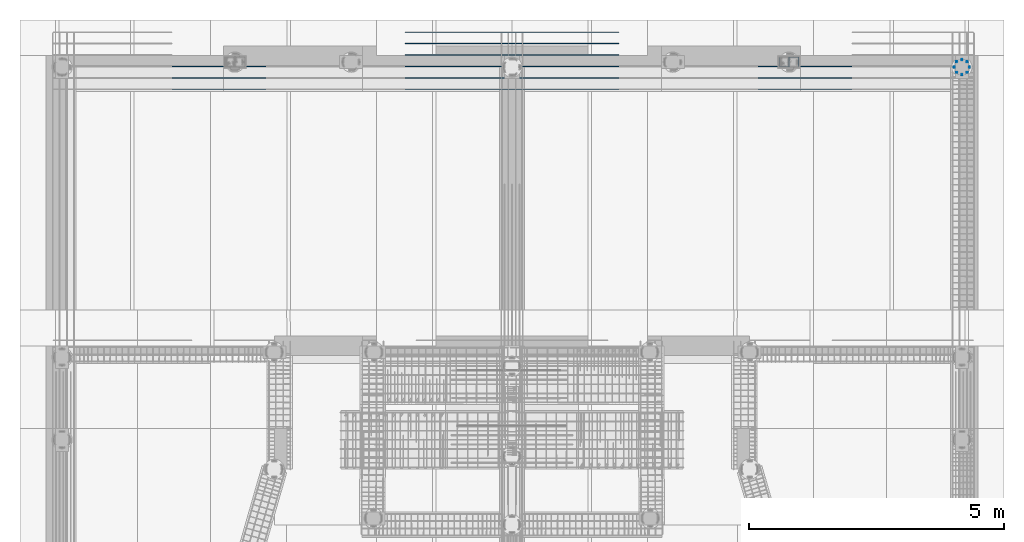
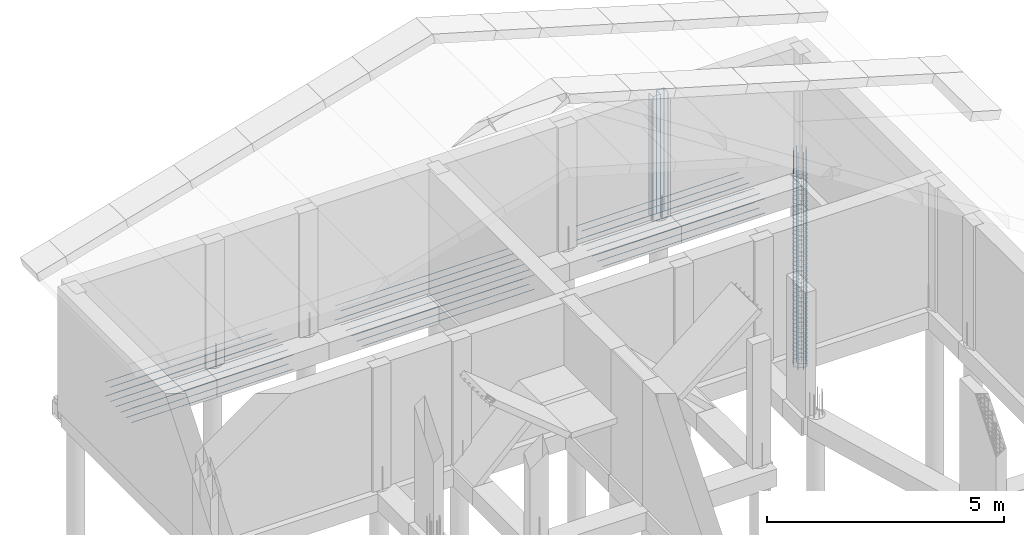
# One storey, part 13 of 13: 5 reinforcing bars.
"""IFC4 building model written with IfcOpenShell, lengths in metres."""

from ifc_helpers import new_model, entity, si_unit, origin_with_axes, place, context, project, spatial, source, transform, mapped, element, save


model = new_model("IFC4")

# Units and contexts
model_context = context("Model", 3, precision=1e-05, world=origin_with_axes())
ifc_project = project(units=[si_unit("LENGTHUNIT", "METRE"), si_unit("AREAUNIT", "SQUARE_METRE"), si_unit("VOLUMEUNIT", "CUBIC_METRE"), si_unit("MASSUNIT", "GRAM", prefix="KILO"), si_unit("TIMEUNIT", "SECOND"), si_unit("PLANEANGLEUNIT", "RADIAN"), si_unit("SOLIDANGLEUNIT", "STERADIAN"), si_unit("THERMODYNAMICTEMPERATUREUNIT", "DEGREE_CELSIUS")], contexts=[model_context])

# Site, building, storey
placement_1 = place(None, origin_with_axes())
site = spatial("IfcSite", under=ifc_project, at=placement_1, Name="Italia", CompositionType="ELEMENT")
building = spatial("IfcBuilding", under=site, at=placement_1, Name="Villa", CompositionType="ELEMENT")
storey = spatial("IfcBuildingStorey", under=building, at=placement_1, Name="Storey 0", CompositionType="ELEMENT", Elevation=0.0)

# Reinforcing bars
shared_shape_1 = source(origin_with_axes(), model_context, "Body", "AdvancedSweptSolid", [
    entity("IfcSweptDiskSolid", entity("IfcIndexedPolyCurve", entity("IfcCartesianPointList3D", [[14.342, 17.782, 0.0], [14.342, 17.782, 3.135], [14.345, 17.782, 3.15031], [14.3537, 17.782, 3.16328], [14.3667, 17.782, 3.17196], [14.382, 17.782, 3.175], [14.524, 17.782, 3.175]]), [entity("IfcLineIndex", [1, 2]), entity("IfcLineIndex", [2, 3]), entity("IfcLineIndex", [3, 4]), entity("IfcLineIndex", [4, 5]), entity("IfcLineIndex", [5, 6]), entity("IfcLineIndex", [6, 7])], False), 0.008),
])
placement_2 = place(placement_1, origin_with_axes())
reinforcing_bar_1_placement = place(placement_2, origin_with_axes())
element("IfcReinforcingBar", 1, at=reinforcing_bar_1_placement, inside=storey, BarLength=3.33943, CrossSectionArea=0.00020106, NominalDiameter=0.016, context=model_context, shape_type="MappedRepresentation", body=[
    mapped(shared_shape_1, transform((29.05, 35.73, 0.0), x_axis=(-1.0, 0.0, 0.0), y_axis=(0.0, -1.0, 0.0), z_axis=(0.0, 0.0, 1.0), scale=1.0)),
    mapped(shared_shape_1, transform((-3.44, 32.29, 0.0), x_axis=(0.0, -1.0, 0.0), y_axis=(1.0, 0.0, 0.0), z_axis=(0.0, 0.0, 1.0), scale=1.0)),
    mapped(shared_shape_1, transform((0.0, 0.0, 0.0), x_axis=(1.0, 0.0, 0.0), y_axis=(0.0, 1.0, 0.0), z_axis=(0.0, 0.0, 1.0), scale=1.0)),
    mapped(shared_shape_1, transform((32.307, 3.44, 0.0), x_axis=(0.0, 1.0, 0.0), y_axis=(-1.0, 0.0, 0.0), z_axis=(0.0, 0.0, 1.0), scale=1.0)),
    mapped(shared_shape_1, transform((-3.257, 32.29, 0.0), x_axis=(0.0, -1.0, 0.0), y_axis=(1.0, 0.0, 0.0), z_axis=(0.0, 0.0, 1.0), scale=1.0)),
    mapped(shared_shape_1, transform((32.49, 3.44, 0.0), x_axis=(0.0, 1.0, 0.0), y_axis=(-1.0, 0.0, 0.0), z_axis=(0.0, 0.0, 1.0), scale=1.0)),
])
shared_shape_2 = source(origin_with_axes(), model_context, "Body", "AdvancedSweptSolid", [
    entity("IfcSweptDiskSolid", entity("IfcIndexedPolyCurve", entity("IfcCartesianPointList3D", [[18.0197, 17.6603, -5.0], [18.0197, 17.6603, 0.6]]), [entity("IfcLineIndex", [1, 2])], False), 0.008),
])
reinforcing_bar_2_placement = place(placement_2, origin_with_axes())
element("IfcReinforcingBar", 2, at=reinforcing_bar_2_placement, inside=storey, BarLength=5.6, CrossSectionArea=0.00020106, NominalDiameter=0.016, context=model_context, shape_type="MappedRepresentation", body=[
    mapped(shared_shape_2, transform((-0.252653, 0.104652, 0.0), x_axis=(1.0, 0.0, 0.0), y_axis=(0.0, 1.0, 0.0), z_axis=(0.0, 0.0, 1.0), scale=1.0)),
    mapped(shared_shape_2, transform((-0.209305, 0.209305, 0.0), x_axis=(1.0, 0.0, 0.0), y_axis=(0.0, 1.0, 0.0), z_axis=(0.0, 0.0, 1.0), scale=1.0)),
    mapped(shared_shape_2, transform((-0.104652, -0.0433483, 0.0), x_axis=(1.0, 0.0, 0.0), y_axis=(0.0, 1.0, 0.0), z_axis=(0.0, 0.0, 1.0), scale=1.0)),
    mapped(shared_shape_2, transform((-0.209305, 0.0, 0.0), x_axis=(1.0, 0.0, 0.0), y_axis=(0.0, 1.0, 0.0), z_axis=(0.0, 0.0, 1.0), scale=1.0)),
    mapped(shared_shape_2, transform((0.0433483, 0.104652, 0.0), x_axis=(1.0, 0.0, 0.0), y_axis=(0.0, 1.0, 0.0), z_axis=(0.0, 0.0, 1.0), scale=1.0)),
    mapped(shared_shape_2, transform((0.0, 0.0, 0.0), x_axis=(1.0, 0.0, 0.0), y_axis=(0.0, 1.0, 0.0), z_axis=(0.0, 0.0, 1.0), scale=1.0)),
    mapped(shared_shape_2, transform((-0.104652, 0.252653, 0.0), x_axis=(1.0, 0.0, 0.0), y_axis=(0.0, 1.0, 0.0), z_axis=(0.0, 0.0, 1.0), scale=1.0)),
    mapped(shared_shape_2, transform((0.0, 0.209305, 0.0), x_axis=(1.0, 0.0, 0.0), y_axis=(0.0, 1.0, 0.0), z_axis=(0.0, 0.0, 1.0), scale=1.0)),
])
shared_shape_3 = source(origin_with_axes(), model_context, "Body", "AdvancedSweptSolid", [
    entity("IfcSweptDiskSolid", entity("IfcIndexedPolyCurve", entity("IfcCartesianPointList3D", [[18.075, 17.765, -4.97], [18.0672, 17.7156, -4.965], [18.0444, 17.671, -4.96], [18.009, 17.6356, -4.955], [17.9644, 17.6128, -4.95], [17.915, 17.605, -4.945], [17.8656, 17.6128, -4.94], [17.821, 17.6356, -4.935], [17.7856, 17.671, -4.93], [17.7628, 17.7156, -4.925], [17.755, 17.765, -4.92], [17.7628, 17.8144, -4.915], [17.7856, 17.859, -4.91], [17.821, 17.8944, -4.905], [17.8656, 17.9172, -4.9], [17.915, 17.925, -4.895], [17.9644, 17.9172, -4.89], [18.009, 17.8944, -4.885], [18.0444, 17.859, -4.88], [18.0672, 17.8144, -4.875], [18.075, 17.765, -4.87]]), [entity("IfcLineIndex", [1, 2]), entity("IfcLineIndex", [2, 3]), entity("IfcLineIndex", [3, 4]), entity("IfcLineIndex", [4, 5]), entity("IfcLineIndex", [5, 6]), entity("IfcLineIndex", [6, 7]), entity("IfcLineIndex", [7, 8]), entity("IfcLineIndex", [8, 9]), entity("IfcLineIndex", [9, 10]), entity("IfcLineIndex", [10, 11]), entity("IfcLineIndex", [11, 12]), entity("IfcLineIndex", [12, 13]), entity("IfcLineIndex", [13, 14]), entity("IfcLineIndex", [14, 15]), entity("IfcLineIndex", [15, 16]), entity("IfcLineIndex", [16, 17]), entity("IfcLineIndex", [17, 18]), entity("IfcLineIndex", [18, 19]), entity("IfcLineIndex", [19, 20]), entity("IfcLineIndex", [20, 21])], False), 0.004),
])
reinforcing_bar_3_placement = place(placement_2, origin_with_axes())
element("IfcReinforcingBar", 3, at=reinforcing_bar_3_placement, inside=storey, BarLength=1.00616, CrossSectionArea=5.0265e-05, NominalDiameter=0.008, context=model_context, shape_type="MappedRepresentation", body=[
    mapped(shared_shape_3, transform((0.0, 0.0, 2.6), x_axis=(1.0, 0.0, 0.0), y_axis=(0.0, 1.0, 0.0), z_axis=(0.0, 0.0, 1.0), scale=1.0)),
    mapped(shared_shape_3, transform((0.0, 0.0, 2.5), x_axis=(1.0, 0.0, 0.0), y_axis=(0.0, 1.0, 0.0), z_axis=(0.0, 0.0, 1.0), scale=1.0)),
    mapped(shared_shape_3, transform((1.33514e-05, 0.0, 3.30002), x_axis=(1.0, 0.0, 0.0), y_axis=(0.0, 1.0, 0.0), z_axis=(0.0, 0.0, 1.0), scale=1.0)),
    mapped(shared_shape_3, transform((1.33514e-05, 0.0, 3.50002), x_axis=(1.0, 0.0, 0.0), y_axis=(0.0, 1.0, 0.0), z_axis=(0.0, 0.0, 1.0), scale=1.0)),
    mapped(shared_shape_3, transform((1.33514e-05, 0.0, 3.40002), x_axis=(1.0, 0.0, 0.0), y_axis=(0.0, 1.0, 0.0), z_axis=(0.0, 0.0, 1.0), scale=1.0)),
    mapped(shared_shape_3, transform((1.33514e-05, 0.0, 3.60002), x_axis=(1.0, 0.0, 0.0), y_axis=(0.0, 1.0, 0.0), z_axis=(0.0, 0.0, 1.0), scale=1.0)),
    mapped(shared_shape_3, transform((1.33514e-05, 0.0, 3.20002), x_axis=(1.0, 0.0, 0.0), y_axis=(0.0, 1.0, 0.0), z_axis=(0.0, 0.0, 1.0), scale=1.0)),
    mapped(shared_shape_3, transform((1.33514e-05, 0.0, 3.10002), x_axis=(1.0, 0.0, 0.0), y_axis=(0.0, 1.0, 0.0), z_axis=(0.0, 0.0, 1.0), scale=1.0)),
    mapped(shared_shape_3, transform((0.0, 0.0, 2.7), x_axis=(1.0, 0.0, 0.0), y_axis=(0.0, 1.0, 0.0), z_axis=(0.0, 0.0, 1.0), scale=1.0)),
    mapped(shared_shape_3, transform((0.0, 0.0, 2.9), x_axis=(1.0, 0.0, 0.0), y_axis=(0.0, 1.0, 0.0), z_axis=(0.0, 0.0, 1.0), scale=1.0)),
    mapped(shared_shape_3, transform((0.0, 0.0, 2.8), x_axis=(1.0, 0.0, 0.0), y_axis=(0.0, 1.0, 0.0), z_axis=(0.0, 0.0, 1.0), scale=1.0)),
    mapped(shared_shape_3, transform((1.33514e-05, 0.0, 3.00002), x_axis=(1.0, 0.0, 0.0), y_axis=(0.0, 1.0, 0.0), z_axis=(0.0, 0.0, 1.0), scale=1.0)),
    mapped(shared_shape_3, transform((1.33514e-05, 0.0, 3.80002), x_axis=(1.0, 0.0, 0.0), y_axis=(0.0, 1.0, 0.0), z_axis=(0.0, 0.0, 1.0), scale=1.0)),
    mapped(shared_shape_3, transform((1.33514e-05, 0.0, 3.70002), x_axis=(1.0, 0.0, 0.0), y_axis=(0.0, 1.0, 0.0), z_axis=(0.0, 0.0, 1.0), scale=1.0)),
    mapped(shared_shape_3, transform((1.33514e-05, 0.0, 4.50002), x_axis=(1.0, 0.0, 0.0), y_axis=(0.0, 1.0, 0.0), z_axis=(0.0, 0.0, 1.0), scale=1.0)),
    mapped(shared_shape_3, transform((1.33514e-05, 0.0, 4.70002), x_axis=(1.0, 0.0, 0.0), y_axis=(0.0, 1.0, 0.0), z_axis=(0.0, 0.0, 1.0), scale=1.0)),
    mapped(shared_shape_3, transform((1.33514e-05, 0.0, 4.60002), x_axis=(1.0, 0.0, 0.0), y_axis=(0.0, 1.0, 0.0), z_axis=(0.0, 0.0, 1.0), scale=1.0)),
    mapped(shared_shape_3, transform((1.33514e-05, 0.0, 4.80002), x_axis=(1.0, 0.0, 0.0), y_axis=(0.0, 1.0, 0.0), z_axis=(0.0, 0.0, 1.0), scale=1.0)),
    mapped(shared_shape_3, transform((1.33514e-05, 0.0, 4.40002), x_axis=(1.0, 0.0, 0.0), y_axis=(0.0, 1.0, 0.0), z_axis=(0.0, 0.0, 1.0), scale=1.0)),
    mapped(shared_shape_3, transform((1.33514e-05, 0.0, 4.30002), x_axis=(1.0, 0.0, 0.0), y_axis=(0.0, 1.0, 0.0), z_axis=(0.0, 0.0, 1.0), scale=1.0)),
    mapped(shared_shape_3, transform((1.33514e-05, 0.0, 3.90002), x_axis=(1.0, 0.0, 0.0), y_axis=(0.0, 1.0, 0.0), z_axis=(0.0, 0.0, 1.0), scale=1.0)),
    mapped(shared_shape_3, transform((1.33514e-05, 0.0, 4.10002), x_axis=(1.0, 0.0, 0.0), y_axis=(0.0, 1.0, 0.0), z_axis=(0.0, 0.0, 1.0), scale=1.0)),
    mapped(shared_shape_3, transform((1.33514e-05, 0.0, 4.00002), x_axis=(1.0, 0.0, 0.0), y_axis=(0.0, 1.0, 0.0), z_axis=(0.0, 0.0, 1.0), scale=1.0)),
    mapped(shared_shape_3, transform((1.33514e-05, 0.0, 4.20002), x_axis=(1.0, 0.0, 0.0), y_axis=(0.0, 1.0, 0.0), z_axis=(0.0, 0.0, 1.0), scale=1.0)),
    mapped(shared_shape_3, transform((0.0, 0.0, 0.0), x_axis=(1.0, 0.0, 0.0), y_axis=(0.0, 1.0, 0.0), z_axis=(0.0, 0.0, 1.0), scale=1.0)),
    mapped(shared_shape_3, transform((1.33514e-05, 0.0, 4.90002), x_axis=(1.0, 0.0, 0.0), y_axis=(0.0, 1.0, 0.0), z_axis=(0.0, 0.0, 1.0), scale=1.0)),
    mapped(shared_shape_3, transform((0.0, 0.0, 0.699999), x_axis=(1.0, 0.0, 0.0), y_axis=(0.0, 1.0, 0.0), z_axis=(0.0, 0.0, 1.0), scale=1.0)),
    mapped(shared_shape_3, transform((0.0, 0.0, 0.899999), x_axis=(1.0, 0.0, 0.0), y_axis=(0.0, 1.0, 0.0), z_axis=(0.0, 0.0, 1.0), scale=1.0)),
    mapped(shared_shape_3, transform((0.0, 0.0, 0.799999), x_axis=(1.0, 0.0, 0.0), y_axis=(0.0, 1.0, 0.0), z_axis=(0.0, 0.0, 1.0), scale=1.0)),
    mapped(shared_shape_3, transform((0.0, 0.0, 0.999999), x_axis=(1.0, 0.0, 0.0), y_axis=(0.0, 1.0, 0.0), z_axis=(0.0, 0.0, 1.0), scale=1.0)),
    mapped(shared_shape_3, transform((0.0, 0.0, 0.599999), x_axis=(1.0, 0.0, 0.0), y_axis=(0.0, 1.0, 0.0), z_axis=(0.0, 0.0, 1.0), scale=1.0)),
    mapped(shared_shape_3, transform((0.0, 0.0, 0.499999), x_axis=(1.0, 0.0, 0.0), y_axis=(0.0, 1.0, 0.0), z_axis=(0.0, 0.0, 1.0), scale=1.0)),
    mapped(shared_shape_3, transform((0.0, 0.0, 0.0999994), x_axis=(1.0, 0.0, 0.0), y_axis=(0.0, 1.0, 0.0), z_axis=(0.0, 0.0, 1.0), scale=1.0)),
    mapped(shared_shape_3, transform((0.0, 0.0, 0.299999), x_axis=(1.0, 0.0, 0.0), y_axis=(0.0, 1.0, 0.0), z_axis=(0.0, 0.0, 1.0), scale=1.0)),
    mapped(shared_shape_3, transform((0.0, 0.0, 0.199999), x_axis=(1.0, 0.0, 0.0), y_axis=(0.0, 1.0, 0.0), z_axis=(0.0, 0.0, 1.0), scale=1.0)),
    mapped(shared_shape_3, transform((0.0, 0.0, 0.399999), x_axis=(1.0, 0.0, 0.0), y_axis=(0.0, 1.0, 0.0), z_axis=(0.0, 0.0, 1.0), scale=1.0)),
    mapped(shared_shape_3, transform((0.0, 0.0, 1.2), x_axis=(1.0, 0.0, 0.0), y_axis=(0.0, 1.0, 0.0), z_axis=(0.0, 0.0, 1.0), scale=1.0)),
    mapped(shared_shape_3, transform((0.0, 0.0, 1.1), x_axis=(1.0, 0.0, 0.0), y_axis=(0.0, 1.0, 0.0), z_axis=(0.0, 0.0, 1.0), scale=1.0)),
    mapped(shared_shape_3, transform((0.0, 0.0, 1.9), x_axis=(1.0, 0.0, 0.0), y_axis=(0.0, 1.0, 0.0), z_axis=(0.0, 0.0, 1.0), scale=1.0)),
    mapped(shared_shape_3, transform((0.0, 0.0, 2.1), x_axis=(1.0, 0.0, 0.0), y_axis=(0.0, 1.0, 0.0), z_axis=(0.0, 0.0, 1.0), scale=1.0)),
    mapped(shared_shape_3, transform((0.0, 0.0, 2.0), x_axis=(1.0, 0.0, 0.0), y_axis=(0.0, 1.0, 0.0), z_axis=(0.0, 0.0, 1.0), scale=1.0)),
    mapped(shared_shape_3, transform((0.0, 0.0, 2.2), x_axis=(1.0, 0.0, 0.0), y_axis=(0.0, 1.0, 0.0), z_axis=(0.0, 0.0, 1.0), scale=1.0)),
    mapped(shared_shape_3, transform((0.0, 0.0, 1.8), x_axis=(1.0, 0.0, 0.0), y_axis=(0.0, 1.0, 0.0), z_axis=(0.0, 0.0, 1.0), scale=1.0)),
    mapped(shared_shape_3, transform((0.0, 0.0, 1.7), x_axis=(1.0, 0.0, 0.0), y_axis=(0.0, 1.0, 0.0), z_axis=(0.0, 0.0, 1.0), scale=1.0)),
    mapped(shared_shape_3, transform((0.0, 0.0, 1.3), x_axis=(1.0, 0.0, 0.0), y_axis=(0.0, 1.0, 0.0), z_axis=(0.0, 0.0, 1.0), scale=1.0)),
    mapped(shared_shape_3, transform((0.0, 0.0, 1.5), x_axis=(1.0, 0.0, 0.0), y_axis=(0.0, 1.0, 0.0), z_axis=(0.0, 0.0, 1.0), scale=1.0)),
    mapped(shared_shape_3, transform((0.0, 0.0, 1.4), x_axis=(1.0, 0.0, 0.0), y_axis=(0.0, 1.0, 0.0), z_axis=(0.0, 0.0, 1.0), scale=1.0)),
    mapped(shared_shape_3, transform((0.0, 0.0, 1.6), x_axis=(1.0, 0.0, 0.0), y_axis=(0.0, 1.0, 0.0), z_axis=(0.0, 0.0, 1.0), scale=1.0)),
    mapped(shared_shape_3, transform((0.0, 0.0, 2.4), x_axis=(1.0, 0.0, 0.0), y_axis=(0.0, 1.0, 0.0), z_axis=(0.0, 0.0, 1.0), scale=1.0)),
    mapped(shared_shape_3, transform((0.0, 0.0, 2.3), x_axis=(1.0, 0.0, 0.0), y_axis=(0.0, 1.0, 0.0), z_axis=(0.0, 0.0, 1.0), scale=1.0)),
])
shared_shape_4 = source(origin_with_axes(), model_context, "Body", "AdvancedSweptSolid", [
    entity("IfcSweptDiskSolid", entity("IfcIndexedPolyCurve", entity("IfcCartesianPointList3D", [[6.98668, 17.331, -0.409], [7.5125, 17.331, -0.409], [10.6675, 17.331, -0.409], [11.1933, 17.331, -0.409]]), [entity("IfcLineIndex", [1, 2]), entity("IfcLineIndex", [2, 3]), entity("IfcLineIndex", [3, 4])], False), 0.008),
])
reinforcing_bar_4_placement = place(placement_2, origin_with_axes())
element("IfcReinforcingBar", 4, at=reinforcing_bar_4_placement, inside=storey, BarLength=4.20663, CrossSectionArea=0.00020106, NominalDiameter=0.016, context=model_context, shape_type="MappedRepresentation", body=[
    mapped(shared_shape_4, transform((0.0, 0.0, 0.368), x_axis=(1.0, 0.0, 0.0), y_axis=(0.0, 1.0, 0.0), z_axis=(0.0, 0.0, 1.0), scale=1.0)),
    mapped(shared_shape_4, transform((0.0, 0.218801, 0.0), x_axis=(1.0, 0.0, 0.0), y_axis=(0.0, 1.0, 0.0), z_axis=(0.0, 0.0, 1.0), scale=1.0)),
    mapped(shared_shape_4, transform((0.0, 1.118, 0.0), x_axis=(1.0, 0.0, 0.0), y_axis=(0.0, 1.0, 0.0), z_axis=(0.0, 0.0, 1.0), scale=1.0)),
    mapped(shared_shape_4, transform((0.0, 0.0, 0.0), x_axis=(1.0, 0.0, 0.0), y_axis=(0.0, 1.0, 0.0), z_axis=(0.0, 0.0, 1.0), scale=1.0)),
    mapped(shared_shape_4, transform((0.0, 0.218801, 0.368), x_axis=(1.0, 0.0, 0.0), y_axis=(0.0, 1.0, 0.0), z_axis=(0.0, 0.0, 1.0), scale=1.0)),
    mapped(shared_shape_4, transform((0.0, 0.445602, 0.368), x_axis=(1.0, 0.0, 0.0), y_axis=(0.0, 1.0, 0.0), z_axis=(0.0, 0.0, 1.0), scale=1.0)),
    mapped(shared_shape_4, transform((0.0, 0.899202, 0.0), x_axis=(1.0, 0.0, 0.0), y_axis=(0.0, 1.0, 0.0), z_axis=(0.0, 0.0, 1.0), scale=1.0)),
    mapped(shared_shape_4, transform((0.0, 0.672401, 0.0), x_axis=(1.0, 0.0, 0.0), y_axis=(0.0, 1.0, 0.0), z_axis=(0.0, 0.0, 1.0), scale=1.0)),
    mapped(shared_shape_4, transform((0.0, 0.445602, 0.0), x_axis=(1.0, 0.0, 0.0), y_axis=(0.0, 1.0, 0.0), z_axis=(0.0, 0.0, 1.0), scale=1.0)),
    mapped(shared_shape_4, transform((0.0, 1.118, 0.368), x_axis=(1.0, 0.0, 0.0), y_axis=(0.0, 1.0, 0.0), z_axis=(0.0, 0.0, 1.0), scale=1.0)),
    mapped(shared_shape_4, transform((0.0, 0.899202, 0.368), x_axis=(1.0, 0.0, 0.0), y_axis=(0.0, 1.0, 0.0), z_axis=(0.0, 0.0, 1.0), scale=1.0)),
    mapped(shared_shape_4, transform((0.0, 0.672401, 0.368), x_axis=(1.0, 0.0, 0.0), y_axis=(0.0, 1.0, 0.0), z_axis=(0.0, 0.0, 1.0), scale=1.0)),
])
shared_shape_5 = source(origin_with_axes(), model_context, "Body", "AdvancedSweptSolid", [
    entity("IfcSweptDiskSolid", entity("IfcIndexedPolyCurve", entity("IfcCartesianPointList3D", [[1.37168, 17.331, -0.409], [1.8975, 17.331, -0.409], [4.795, 17.331, -0.409], [5.32082, 17.331, -0.409]]), [entity("IfcLineIndex", [1, 2]), entity("IfcLineIndex", [2, 3]), entity("IfcLineIndex", [3, 4])], False), 0.008),
])
reinforcing_bar_5_placement = place(placement_2, origin_with_axes())
element("IfcReinforcingBar", 5, at=reinforcing_bar_5_placement, inside=storey, BarLength=3.94913, CrossSectionArea=0.00020106, NominalDiameter=0.016, context=model_context, shape_type="MappedRepresentation", body=[
    mapped(shared_shape_5, transform((11.4875, 0.2188, 0.0), x_axis=(1.0, 0.0, 0.0), y_axis=(0.0, 1.0, 0.0), z_axis=(0.0, 0.0, 1.0), scale=1.0)),
    mapped(shared_shape_5, transform((11.4875, 1.118, 0.0), x_axis=(1.0, 0.0, 0.0), y_axis=(0.0, 1.0, 0.0), z_axis=(0.0, 0.0, 1.0), scale=1.0)),
    mapped(shared_shape_5, transform((11.4875, 0.0, 0.0), x_axis=(1.0, 0.0, 0.0), y_axis=(0.0, 1.0, 0.0), z_axis=(0.0, 0.0, 1.0), scale=1.0)),
    mapped(shared_shape_5, transform((11.4875, 0.8992, 0.0), x_axis=(1.0, 0.0, 0.0), y_axis=(0.0, 1.0, 0.0), z_axis=(0.0, 0.0, 1.0), scale=1.0)),
    mapped(shared_shape_5, transform((11.4875, 0.6724, 0.0), x_axis=(1.0, 0.0, 0.0), y_axis=(0.0, 1.0, 0.0), z_axis=(0.0, 0.0, 1.0), scale=1.0)),
    mapped(shared_shape_5, transform((11.4875, 0.445601, 0.0), x_axis=(1.0, 0.0, 0.0), y_axis=(0.0, 1.0, 0.0), z_axis=(0.0, 0.0, 1.0), scale=1.0)),
    mapped(shared_shape_5, transform((0.0, 1.118, 0.0), x_axis=(1.0, 0.0, 0.0), y_axis=(0.0, 1.0, 0.0), z_axis=(0.0, 0.0, 1.0), scale=1.0)),
    mapped(shared_shape_5, transform((0.0, 0.2188, 0.0), x_axis=(1.0, 0.0, 0.0), y_axis=(0.0, 1.0, 0.0), z_axis=(0.0, 0.0, 1.0), scale=1.0)),
    mapped(shared_shape_5, transform((0.0, 0.0, 0.0), x_axis=(1.0, 0.0, 0.0), y_axis=(0.0, 1.0, 0.0), z_axis=(0.0, 0.0, 1.0), scale=1.0)),
    mapped(shared_shape_5, transform((11.4875, 0.445601, 0.368), x_axis=(1.0, 0.0, 0.0), y_axis=(0.0, 1.0, 0.0), z_axis=(0.0, 0.0, 1.0), scale=1.0)),
    mapped(shared_shape_5, transform((0.0, 0.8992, 0.0), x_axis=(1.0, 0.0, 0.0), y_axis=(0.0, 1.0, 0.0), z_axis=(0.0, 0.0, 1.0), scale=1.0)),
    mapped(shared_shape_5, transform((0.0, 0.6724, 0.0), x_axis=(1.0, 0.0, 0.0), y_axis=(0.0, 1.0, 0.0), z_axis=(0.0, 0.0, 1.0), scale=1.0)),
    mapped(shared_shape_5, transform((0.0, 0.445601, 0.0), x_axis=(1.0, 0.0, 0.0), y_axis=(0.0, 1.0, 0.0), z_axis=(0.0, 0.0, 1.0), scale=1.0)),
    mapped(shared_shape_5, transform((11.4875, 0.8992, 0.368), x_axis=(1.0, 0.0, 0.0), y_axis=(0.0, 1.0, 0.0), z_axis=(0.0, 0.0, 1.0), scale=1.0)),
    mapped(shared_shape_5, transform((11.4875, 1.118, 0.368), x_axis=(1.0, 0.0, 0.0), y_axis=(0.0, 1.0, 0.0), z_axis=(0.0, 0.0, 1.0), scale=1.0)),
    mapped(shared_shape_5, transform((11.4875, 0.2188, 0.368), x_axis=(1.0, 0.0, 0.0), y_axis=(0.0, 1.0, 0.0), z_axis=(0.0, 0.0, 1.0), scale=1.0)),
    mapped(shared_shape_5, transform((11.4875, 0.6724, 0.368), x_axis=(1.0, 0.0, 0.0), y_axis=(0.0, 1.0, 0.0), z_axis=(0.0, 0.0, 1.0), scale=1.0)),
    mapped(shared_shape_5, transform((11.4875, 0.0, 0.368), x_axis=(1.0, 0.0, 0.0), y_axis=(0.0, 1.0, 0.0), z_axis=(0.0, 0.0, 1.0), scale=1.0)),
    mapped(shared_shape_5, transform((0.0, 0.2188, 0.368), x_axis=(1.0, 0.0, 0.0), y_axis=(0.0, 1.0, 0.0), z_axis=(0.0, 0.0, 1.0), scale=1.0)),
    mapped(shared_shape_5, transform((0.0, 1.118, 0.368), x_axis=(1.0, 0.0, 0.0), y_axis=(0.0, 1.0, 0.0), z_axis=(0.0, 0.0, 1.0), scale=1.0)),
    mapped(shared_shape_5, transform((0.0, 0.0, 0.368), x_axis=(1.0, 0.0, 0.0), y_axis=(0.0, 1.0, 0.0), z_axis=(0.0, 0.0, 1.0), scale=1.0)),
    mapped(shared_shape_5, transform((0.0, 0.8992, 0.368), x_axis=(1.0, 0.0, 0.0), y_axis=(0.0, 1.0, 0.0), z_axis=(0.0, 0.0, 1.0), scale=1.0)),
    mapped(shared_shape_5, transform((0.0, 0.6724, 0.368), x_axis=(1.0, 0.0, 0.0), y_axis=(0.0, 1.0, 0.0), z_axis=(0.0, 0.0, 1.0), scale=1.0)),
    mapped(shared_shape_5, transform((0.0, 0.445601, 0.368), x_axis=(1.0, 0.0, 0.0), y_axis=(0.0, 1.0, 0.0), z_axis=(0.0, 0.0, 1.0), scale=1.0)),
])

save(model, "model.ifc")
